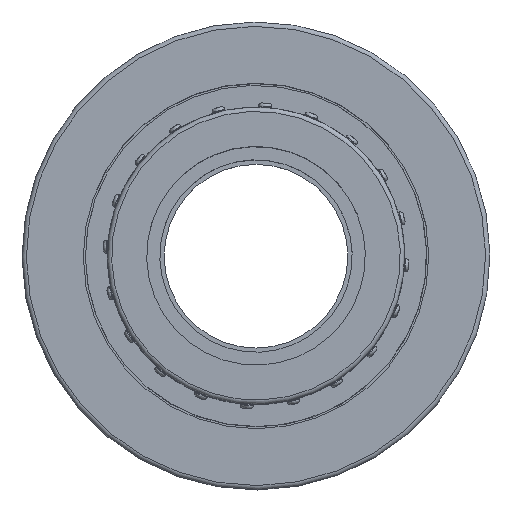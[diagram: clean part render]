
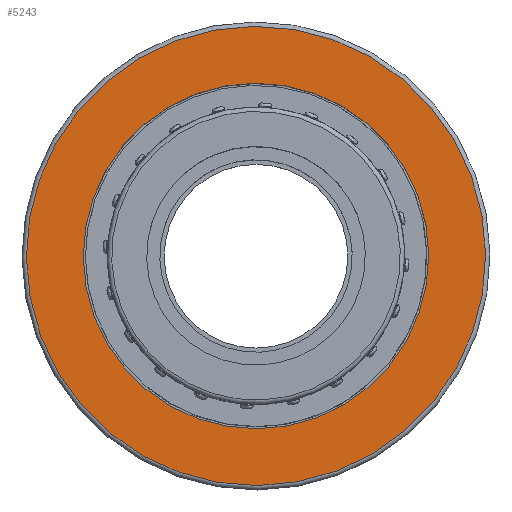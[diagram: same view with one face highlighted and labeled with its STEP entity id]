
A CAD part, top view. The second image highlights one B-rep face of the part: STEP entity #5243.
In plain terms, the highlighted planar face has unit normal (0, 0, 1).
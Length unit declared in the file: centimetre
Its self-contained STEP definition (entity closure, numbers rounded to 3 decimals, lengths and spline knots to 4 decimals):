
#1011=FACE_BOUND('',#1326,.T.);
#1037=FACE_OUTER_BOUND('',#1325,.T.);
#1325=EDGE_LOOP('',(#3289));
#1326=EDGE_LOOP('',(#3290));
#1635=CIRCLE('',#5533,2.625);
#1637=CIRCLE('',#5536,1.975);
#1979=VERTEX_POINT('',#7648);
#1981=VERTEX_POINT('',#7653);
#2503=EDGE_CURVE('',#1979,#1979,#1635,.T.);
#2505=EDGE_CURVE('',#1981,#1981,#1637,.T.);
#3289=ORIENTED_EDGE('',*,*,#2503,.F.);
#3290=ORIENTED_EDGE('',*,*,#2505,.T.);
#4854=PLANE('',#5535);
#5243=ADVANCED_FACE('',(#1037,#1011),#4854,.T.);
#5533=AXIS2_PLACEMENT_3D('',#7649,#6119,#6120);
#5535=AXIS2_PLACEMENT_3D('',#7652,#6123,#6124);
#5536=AXIS2_PLACEMENT_3D('',#7654,#6125,#6126);
#6119=DIRECTION('center_axis',(0.,0.,
-1.));
#6120=DIRECTION('ref_axis',(0.87,-0.493,0.));
#6123=DIRECTION('center_axis',(0.,0.,
1.));
#6124=DIRECTION('ref_axis',(-0.493,-0.87,0.));
#6125=DIRECTION('center_axis',(0.,0.,
-1.));
#6126=DIRECTION('ref_axis',(0.87,-0.493,0.));
#7648=CARTESIAN_POINT('',(-2.2831,1.2954,1.47));
#7649=CARTESIAN_POINT('Origin',(0.,0.,
1.47));
#7652=CARTESIAN_POINT('Origin',(-2.3266,1.3201,1.47));
#7653=CARTESIAN_POINT('',(-1.7178,0.9746,1.47));
#7654=CARTESIAN_POINT('Origin',(0.,0.,
1.47));
